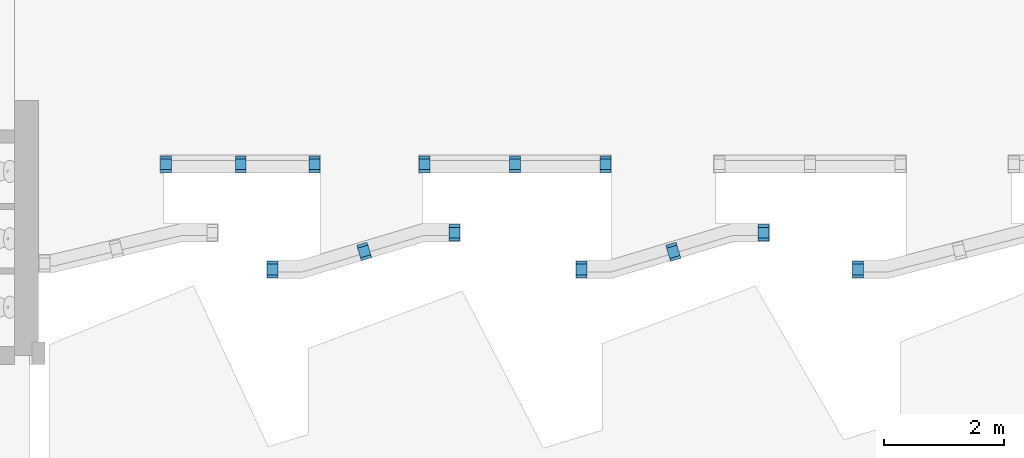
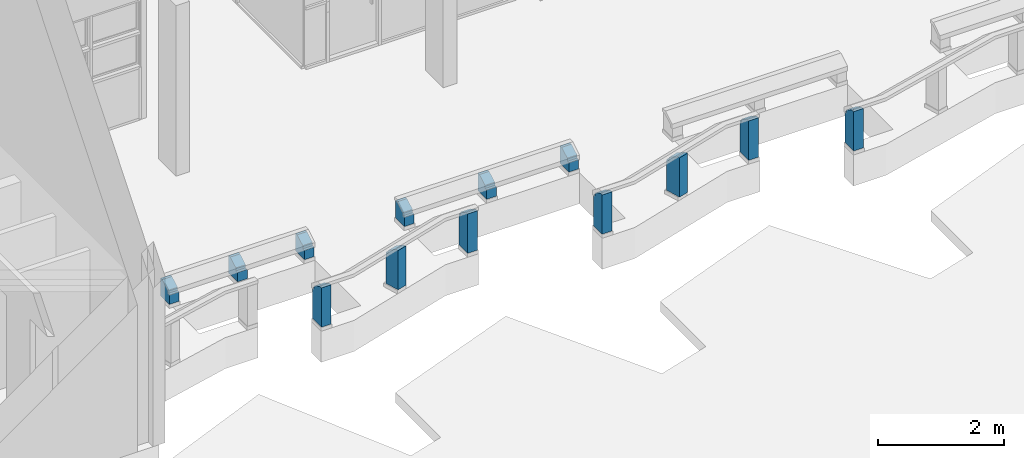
# One storey, part 93 of 117: 13 walls, 13 openings.
"""IFC4 building model written with IfcOpenShell, lengths in metres."""

from ifc_helpers import new_model, entity, si_unit, converted_unit, derived_unit, direction, frame, origin, place, context, subcontext, project, spatial, indexed_curve, outline, extrude, polygons, material, type_object, element, save


model = new_model("IFC4")

# Units and contexts
model_context = context("Model", 3, precision=1e-05, world=origin(), true_north=direction((6.123031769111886e-17, 1.0)))
body_context = subcontext(model_context, "Body", "Model", "MODEL_VIEW")
ifc_project = project(units=[si_unit("LENGTHUNIT", "METRE"), si_unit("AREAUNIT", "SQUARE_METRE"), si_unit("VOLUMEUNIT", "CUBIC_METRE"), converted_unit("PLANEANGLEUNIT", "DEGREE", entity("IfcRatioMeasure", 0.017453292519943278), si_unit("PLANEANGLEUNIT", "RADIAN"), dimensions=[0, 0, 0, 0, 0, 0, 0]), si_unit("MASSUNIT", "GRAM", prefix="KILO"), derived_unit("MASSDENSITYUNIT", [(si_unit("MASSUNIT", "GRAM", prefix="KILO"), 1), (si_unit("LENGTHUNIT", "METRE"), -3)]), derived_unit("MOMENTOFINERTIAUNIT", [(si_unit("LENGTHUNIT", "METRE"), 4)]), si_unit("TIMEUNIT", "SECOND"), si_unit("FREQUENCYUNIT", "HERTZ"), si_unit("THERMODYNAMICTEMPERATUREUNIT", "DEGREE_CELSIUS"), derived_unit("THERMALTRANSMITTANCEUNIT", [(si_unit("MASSUNIT", "GRAM", prefix="KILO"), 1), (si_unit("THERMODYNAMICTEMPERATUREUNIT", "KELVIN"), -1), (si_unit("TIMEUNIT", "SECOND"), -3)]), derived_unit("VOLUMETRICFLOWRATEUNIT", [(si_unit("LENGTHUNIT", "METRE"), 3), (si_unit("TIMEUNIT", "SECOND"), -1)]), derived_unit("MASSFLOWRATEUNIT", [(si_unit("MASSUNIT", "GRAM", prefix="KILO"), 1), (si_unit("TIMEUNIT", "SECOND"), -1)]), derived_unit("ROTATIONALFREQUENCYUNIT", [(si_unit("TIMEUNIT", "SECOND"), -1)]), si_unit("ELECTRICCURRENTUNIT", "AMPERE"), si_unit("ELECTRICVOLTAGEUNIT", "VOLT"), si_unit("POWERUNIT", "WATT"), si_unit("FORCEUNIT", "NEWTON", prefix="KILO"), si_unit("ILLUMINANCEUNIT", "LUX"), si_unit("LUMINOUSFLUXUNIT", "LUMEN"), si_unit("LUMINOUSINTENSITYUNIT", "CANDELA"), derived_unit("USERDEFINED", [(si_unit("MASSUNIT", "GRAM", prefix="KILO"), -1), (si_unit("LENGTHUNIT", "METRE"), -2), (si_unit("TIMEUNIT", "SECOND"), 3), (si_unit("LUMINOUSFLUXUNIT", "LUMEN"), 1)]), derived_unit("SOUNDPOWERUNIT", [(si_unit("MASSUNIT", "GRAM", prefix="KILO"), 1), (si_unit("LENGTHUNIT", "METRE"), 2), (si_unit("TIMEUNIT", "SECOND"), -3)]), derived_unit("SOUNDPRESSUREUNIT", [(si_unit("MASSUNIT", "GRAM", prefix="KILO"), 1), (si_unit("LENGTHUNIT", "METRE"), -1), (si_unit("TIMEUNIT", "SECOND"), -2)]), derived_unit("LINEARVELOCITYUNIT", [(si_unit("LENGTHUNIT", "METRE"), 1), (si_unit("TIMEUNIT", "SECOND"), -1)]), si_unit("PRESSUREUNIT", "PASCAL"), derived_unit("USERDEFINED", [(si_unit("LENGTHUNIT", "METRE"), -2), (si_unit("MASSUNIT", "GRAM", prefix="KILO"), 1), (si_unit("TIMEUNIT", "SECOND"), -2)]), derived_unit("LINEARFORCEUNIT", [(si_unit("MASSUNIT", "GRAM", prefix="KILO"), 1), (si_unit("LENGTHUNIT", "METRE"), 1), (si_unit("TIMEUNIT", "SECOND"), -2), (si_unit("LENGTHUNIT", "METRE"), -1)]), derived_unit("PLANARFORCEUNIT", [(si_unit("MASSUNIT", "GRAM", prefix="KILO"), 1), (si_unit("LENGTHUNIT", "METRE"), 1), (si_unit("TIMEUNIT", "SECOND"), -2), (si_unit("LENGTHUNIT", "METRE"), -2)])], contexts=[model_context])

# Site, building, storey
site_placement = place(None, origin())
site = spatial("IfcSite", under=ifc_project, at=site_placement, Name="Superficie", CompositionType="ELEMENT")
building_placement = place(site_placement, origin())
building = spatial("IfcBuilding", under=site, at=building_placement, CompositionType="ELEMENT")
storey_placement = place(building_placement, origin())
storey = spatial("IfcBuildingStorey", under=building, at=storey_placement, Name="Nivel 0", CompositionType="ELEMENT", Elevation=0.0)

# Wall, opening
ifc_material = material(Name="Muro por defecto", Category="Varios")
wall_type = type_object("IfcWallType", Name="Muro básico:Por defecto - 18 cm 2", PredefinedType="STANDARD")
wall_1_placement = place(storey_placement, frame((-16.222973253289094, -6.154170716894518, 0.07000000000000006), z_axis=(0.0, 0.0, 1.0), x_axis=(0.0, -1.0, 0.0)))
wall_1 = element("IfcWall", 1, at=wall_1_placement, inside=storey, type_object=wall_type, material=ifc_material, Name="Muro básico:Por defecto - 18 cm 2", ObjectType="Muro básico:Por defecto - 18 cm 2", PredefinedType="NOTDEFINED", context=body_context, shape_type="Tessellation", body=[
    polygons([(0.0, -0.08999999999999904, 0.0), (0.27999999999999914, -0.08999999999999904, 0.0), (0.27999999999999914, -0.08999999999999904, 0.17999999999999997), (0.22999999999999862, -0.08999999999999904, 0.17999999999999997), (0.22999999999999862, -0.08999999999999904, 0.24069791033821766), (0.04999999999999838, -0.08999999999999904, 0.3399999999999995), (0.0, -0.08999999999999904, 0.3399999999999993), (0.0, 0.08999999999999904, 0.0), (0.0, 0.08999999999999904, 0.3399999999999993), (0.04999999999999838, 0.08999999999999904, 0.3399999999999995), (0.22999999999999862, 0.08999999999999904, 0.24069791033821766), (0.22999999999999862, 0.08999999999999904, 0.17999999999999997), (0.27999999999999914, 0.08999999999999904, 0.17999999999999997), (0.27999999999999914, 0.08999999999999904, 0.0)], [[[1, 2, 3, 4, 5, 6, 7]], [[8, 9, 10, 11, 12, 13, 14]], [[2, 1, 8, 14]], [[1, 7, 9, 8]], [[3, 2, 14, 13]], [[4, 3, 13, 12]], [[5, 4, 12, 11]], [[6, 5, 11, 10]], [[7, 6, 10, 9]]], closed=True),
])
opening_1_placement = place(wall_1_placement, origin())
element("IfcOpeningElement", 2, at=opening_1_placement, cuts=wall_1, Name="Muro básico:Por defecto - 18 cm 2", PredefinedType="OPENING", context=body_context, shape_type="SweptSolid", body=[
    extrude(outline(indexed_curve([(-0.04046527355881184, -0.016666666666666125), (0.020232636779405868, -0.016666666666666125), (0.020232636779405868, 0.03333333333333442), (-0.04046527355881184, -0.016666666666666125)], self_intersect=False)), frame((0.24666666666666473, 0.0900000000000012, 0.20023263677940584), z_axis=(0.0, -1.0, 0.0), x_axis=(0.0, 0.0, -1.0)), (0.0, 0.0, 1.0), 0.18),
])

wall_2_placement = place(storey_placement, frame((-14.718087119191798, -6.154170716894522, 0.07000000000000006), z_axis=(0.0, 0.0, 1.0), x_axis=(0.0, -1.0, 0.0)))
wall_2 = element("IfcWall", 3, at=wall_2_placement, inside=storey, type_object=wall_type, material=ifc_material, Name="Muro básico:Por defecto - 18 cm 2", ObjectType="Muro básico:Por defecto - 18 cm 2", PredefinedType="NOTDEFINED", context=body_context, shape_type="Tessellation", body=[
    polygons([(0.0, -0.0900000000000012, 0.0), (0.27999999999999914, -0.0900000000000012, 0.0), (0.27999999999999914, -0.0900000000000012, 0.17999999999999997), (0.22999999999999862, -0.0900000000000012, 0.17999999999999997), (0.22999999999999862, -0.0900000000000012, 0.24069791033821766), (0.04999999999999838, -0.0900000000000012, 0.3399999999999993), (0.0, -0.0900000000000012, 0.3399999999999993), (0.0, 0.08999999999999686, 0.0), (0.0, 0.08999999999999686, 0.3399999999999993), (0.04999999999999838, 0.08999999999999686, 0.3399999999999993), (0.22999999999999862, 0.08999999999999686, 0.24069791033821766), (0.22999999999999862, 0.08999999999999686, 0.17999999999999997), (0.27999999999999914, 0.08999999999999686, 0.17999999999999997), (0.27999999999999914, 0.08999999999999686, 0.0)], [[[1, 2, 3, 4, 5, 6, 7]], [[8, 9, 10, 11, 12, 13, 14]], [[2, 1, 8, 14]], [[1, 7, 9, 8]], [[3, 2, 14, 13]], [[4, 3, 13, 12]], [[5, 4, 12, 11]], [[6, 5, 11, 10]], [[7, 6, 10, 9]]], closed=True),
])
opening_2_placement = place(wall_2_placement, origin())
element("IfcOpeningElement", 4, at=opening_2_placement, cuts=wall_2, Name="Muro básico:Por defecto - 18 cm 2", PredefinedType="OPENING", context=body_context, shape_type="SweptSolid", body=[
    extrude(outline(indexed_curve([(-0.036810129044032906, -0.0128641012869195), (0.04182978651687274, -0.012864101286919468), (-0.005019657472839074, 0.025728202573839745), (-0.036810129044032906, -0.0128641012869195)], self_intersect=False)), frame((0.2466666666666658, 0.08999999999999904, 0.20023263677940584), z_axis=(0.0, -1.0, 0.0), x_axis=(-0.6358094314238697, 0.0, 0.771846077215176)), (0.0, 0.0, 1.0), 0.18),
])

wall_3_placement = place(storey_placement, frame((-13.213200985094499, -6.154170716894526, 0.07000000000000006), z_axis=(0.0, 0.0, 1.0), x_axis=(0.0, -1.0, 0.0)))
wall_3 = element("IfcWall", 5, at=wall_3_placement, inside=storey, type_object=wall_type, material=ifc_material, Name="Muro básico:Por defecto - 18 cm 2", ObjectType="Muro básico:Por defecto - 18 cm 2", PredefinedType="NOTDEFINED", context=body_context, shape_type="Tessellation", body=[
    polygons([(0.0, -0.0900000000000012, 0.0), (0.27999999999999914, -0.0900000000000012, 0.0), (0.27999999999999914, -0.0900000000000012, 0.17999999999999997), (0.22999999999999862, -0.0900000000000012, 0.17999999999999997), (0.22999999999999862, -0.0900000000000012, 0.24069791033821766), (0.04999999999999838, -0.0900000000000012, 0.3399999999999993), (0.0, -0.0900000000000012, 0.3399999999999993), (0.0, 0.08999999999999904, 0.0), (0.0, 0.08999999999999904, 0.3399999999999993), (0.04999999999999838, 0.08999999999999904, 0.3399999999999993), (0.22999999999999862, 0.08999999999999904, 0.24069791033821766), (0.22999999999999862, 0.08999999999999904, 0.17999999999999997), (0.27999999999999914, 0.08999999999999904, 0.17999999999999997), (0.27999999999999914, 0.08999999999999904, 0.0)], [[[1, 2, 3, 4, 5, 6, 7]], [[8, 9, 10, 11, 12, 13, 14]], [[2, 1, 8, 14]], [[1, 7, 9, 8]], [[3, 2, 14, 13]], [[4, 3, 13, 12]], [[5, 4, 12, 11]], [[6, 5, 11, 10]], [[7, 6, 10, 9]]], closed=True),
])
opening_3_placement = place(wall_3_placement, origin())
element("IfcOpeningElement", 6, at=opening_3_placement, cuts=wall_3, Name="Muro básico:Por defecto - 18 cm 2", PredefinedType="OPENING", context=body_context, shape_type="SweptSolid", body=[
    extrude(outline(indexed_curve([(-0.036810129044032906, -0.0128641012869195), (0.04182978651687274, -0.012864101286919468), (-0.005019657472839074, 0.025728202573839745), (-0.036810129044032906, -0.0128641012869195)], self_intersect=False)), frame((0.2466666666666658, 0.08999999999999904, 0.20023263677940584), z_axis=(0.0, -1.0, 0.0), x_axis=(-0.6358094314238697, 0.0, 0.771846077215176)), (0.0, 0.0, 1.0), 0.18),
])

wall_4_placement = place(storey_placement, frame((-20.523200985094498, -6.154170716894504, 0.07000000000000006), z_axis=(0.0, 0.0, 1.0), x_axis=(0.0, -1.0, 0.0)))
wall_4 = element("IfcWall", 7, at=wall_4_placement, inside=storey, type_object=wall_type, material=ifc_material, Name="Muro básico:Por defecto - 18 cm 2", ObjectType="Muro básico:Por defecto - 18 cm 2", PredefinedType="NOTDEFINED", context=body_context, shape_type="Tessellation", body=[
    polygons([(0.0, -0.08999999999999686, 0.0), (0.27999999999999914, -0.08999999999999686, 0.0), (0.27999999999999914, -0.08999999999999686, 0.17999999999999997), (0.22999999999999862, -0.08999999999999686, 0.17999999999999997), (0.22999999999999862, -0.08999999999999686, 0.24069791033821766), (0.04999999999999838, -0.08999999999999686, 0.3399999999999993), (0.0, -0.08999999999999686, 0.3399999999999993), (0.0, 0.0900000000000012, 0.0), (0.0, 0.0900000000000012, 0.3399999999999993), (0.04999999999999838, 0.0900000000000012, 0.3399999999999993), (0.22999999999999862, 0.0900000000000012, 0.24069791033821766), (0.22999999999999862, 0.0900000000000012, 0.17999999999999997), (0.27999999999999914, 0.0900000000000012, 0.17999999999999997), (0.27999999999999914, 0.0900000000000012, 0.0)], [[[1, 2, 3, 4, 5, 6, 7]], [[8, 9, 10, 11, 12, 13, 14]], [[2, 1, 8, 14]], [[1, 7, 9, 8]], [[3, 2, 14, 13]], [[4, 3, 13, 12]], [[5, 4, 12, 11]], [[6, 5, 11, 10]], [[7, 6, 10, 9]]], closed=True),
])
opening_4_placement = place(wall_4_placement, origin())
element("IfcOpeningElement", 8, at=opening_4_placement, cuts=wall_4, Name="Muro básico:Por defecto - 18 cm 2", PredefinedType="OPENING", context=body_context, shape_type="SweptSolid", body=[
    extrude(outline(indexed_curve([(-0.036810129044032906, -0.0128641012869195), (0.04182978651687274, -0.012864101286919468), (-0.005019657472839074, 0.025728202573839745), (-0.036810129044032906, -0.0128641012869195)], self_intersect=False)), frame((0.2466666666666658, 0.09000000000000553, 0.20023263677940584), z_axis=(0.0, -1.0, 0.0), x_axis=(-0.6358094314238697, 0.0, 0.771846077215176)), (0.0, 0.0, 1.0), 0.18),
])

wall_5_placement = place(storey_placement, frame((-19.2782009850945, -6.154170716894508, 0.07000000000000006), z_axis=(0.0, 0.0, 1.0), x_axis=(0.0, -1.0, 0.0)))
wall_5 = element("IfcWall", 9, at=wall_5_placement, inside=storey, type_object=wall_type, material=ifc_material, Name="Muro básico:Por defecto - 18 cm 2", ObjectType="Muro básico:Por defecto - 18 cm 2", PredefinedType="NOTDEFINED", context=body_context, shape_type="Tessellation", body=[
    polygons([(0.0, -0.0900000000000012, 0.0), (0.27999999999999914, -0.0900000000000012, 0.0), (0.27999999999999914, -0.0900000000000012, 0.17999999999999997), (0.22999999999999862, -0.0900000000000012, 0.17999999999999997), (0.22999999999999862, -0.0900000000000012, 0.24069791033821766), (0.04999999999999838, -0.0900000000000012, 0.3399999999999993), (0.0, -0.0900000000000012, 0.3399999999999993), (0.0, 0.08999999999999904, 0.0), (0.0, 0.08999999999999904, 0.3399999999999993), (0.04999999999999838, 0.08999999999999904, 0.3399999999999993), (0.22999999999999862, 0.08999999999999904, 0.24069791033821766), (0.22999999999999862, 0.08999999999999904, 0.17999999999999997), (0.27999999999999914, 0.08999999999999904, 0.17999999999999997), (0.27999999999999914, 0.08999999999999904, 0.0)], [[[1, 2, 3, 4, 5, 6, 7]], [[8, 9, 10, 11, 12, 13, 14]], [[2, 1, 8, 14]], [[1, 7, 9, 8]], [[3, 2, 14, 13]], [[4, 3, 13, 12]], [[5, 4, 12, 11]], [[6, 5, 11, 10]], [[7, 6, 10, 9]]], closed=True),
])
opening_5_placement = place(wall_5_placement, origin())
element("IfcOpeningElement", 10, at=opening_5_placement, cuts=wall_5, Name="Muro básico:Por defecto - 18 cm 2", PredefinedType="OPENING", context=body_context, shape_type="SweptSolid", body=[
    extrude(outline(indexed_curve([(-0.03681012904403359, -0.012864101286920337), (0.041829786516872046, -0.012864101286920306), (-0.005019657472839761, 0.025728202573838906), (-0.03681012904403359, -0.012864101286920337)], self_intersect=False)), frame((0.24666666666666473, 0.08999999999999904, 0.20023263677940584), z_axis=(0.0, -1.0, 0.0), x_axis=(-0.6358094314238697, 0.0, 0.771846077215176)), (0.0, 0.0, 1.0), 0.18),
])

wall_6_placement = place(storey_placement, frame((-18.053200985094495, -6.154170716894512, 0.07000000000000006), z_axis=(0.0, 0.0, 1.0), x_axis=(0.0, -1.0, 0.0)))
wall_6 = element("IfcWall", 11, at=wall_6_placement, inside=storey, type_object=wall_type, material=ifc_material, Name="Muro básico:Por defecto - 18 cm 2", ObjectType="Muro básico:Por defecto - 18 cm 2", PredefinedType="NOTDEFINED", context=body_context, shape_type="Tessellation", body=[
    polygons([(0.0, -0.08999999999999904, 0.0), (0.27999999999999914, -0.08999999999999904, 0.0), (0.27999999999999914, -0.08999999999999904, 0.17999999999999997), (0.22999999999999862, -0.08999999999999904, 0.17999999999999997), (0.22999999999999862, -0.08999999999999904, 0.24069791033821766), (0.04999999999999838, -0.08999999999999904, 0.3399999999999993), (0.0, -0.08999999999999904, 0.3399999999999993), (0.0, 0.08999999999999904, 0.0), (0.0, 0.08999999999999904, 0.3399999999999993), (0.04999999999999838, 0.08999999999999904, 0.3399999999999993), (0.22999999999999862, 0.08999999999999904, 0.24069791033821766), (0.22999999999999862, 0.08999999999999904, 0.17999999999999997), (0.27999999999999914, 0.08999999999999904, 0.17999999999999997), (0.27999999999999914, 0.08999999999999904, 0.0)], [[[1, 2, 3, 4, 5, 6, 7]], [[8, 9, 10, 11, 12, 13, 14]], [[2, 1, 8, 14]], [[1, 7, 9, 8]], [[3, 2, 14, 13]], [[4, 3, 13, 12]], [[5, 4, 12, 11]], [[6, 5, 11, 10]], [[7, 6, 10, 9]]], closed=True),
])
opening_6_placement = place(wall_6_placement, origin())
element("IfcOpeningElement", 12, at=opening_6_placement, cuts=wall_6, Name="Muro básico:Por defecto - 18 cm 2", PredefinedType="OPENING", context=body_context, shape_type="SweptSolid", body=[
    extrude(outline(indexed_curve([(-0.03681012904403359, -0.012864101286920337), (0.041829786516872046, -0.012864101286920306), (-0.005019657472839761, 0.025728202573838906), (-0.03681012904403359, -0.012864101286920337)], self_intersect=False)), frame((0.24666666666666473, 0.0900000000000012, 0.20023263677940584), z_axis=(0.0, -1.0, 0.0), x_axis=(-0.6358094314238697, 0.0, 0.771846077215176)), (0.0, 0.0, 1.0), 0.18),
])

wall_7_placement = place(storey_placement, frame((-15.723200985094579, -7.575650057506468, 0.07000000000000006), z_axis=(0.0, 0.0, 1.0), x_axis=(0.0, 1.0, 0.0)))
wall_7 = element("IfcWall", 13, at=wall_7_placement, inside=storey, type_object=wall_type, material=ifc_material, Name="Muro básico:Por defecto - 18 cm 2", ObjectType="Muro básico:Por defecto - 18 cm 2", PredefinedType="NOTDEFINED", context=body_context, shape_type="Tessellation", body=[
    polygons([(1.0828671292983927e-15, -0.09000000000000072, 0.0), (0.27999999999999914, -0.09000000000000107, 0.0), (0.27999999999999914, -0.09000000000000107, 0.6000000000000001), (0.22999999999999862, -0.0900000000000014, 0.6000000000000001), (0.22999999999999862, -0.0900000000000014, 0.6606979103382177), (0.04999999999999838, -0.0900000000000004, 0.7599999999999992), (1.0828671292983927e-15, -0.09000000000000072, 0.7599999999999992), (1.0828671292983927e-15, 0.08999999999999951, 0.0), (1.0828671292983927e-15, 0.08999999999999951, 0.7599999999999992), (0.04999999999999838, 0.08999999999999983, 0.7599999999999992), (0.2299999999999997, 0.08999999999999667, 0.6606979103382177), (0.2299999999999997, 0.08999999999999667, 0.6000000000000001), (0.27999999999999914, 0.089999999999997, 0.6000000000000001), (0.27999999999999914, 0.089999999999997, 0.0)], [[[1, 2, 3, 4, 5, 6, 7]], [[8, 9, 10, 11, 12, 13, 14]], [[2, 1, 8, 14]], [[1, 7, 9, 8]], [[3, 2, 14, 13]], [[4, 3, 13, 12]], [[5, 4, 12, 11]], [[6, 5, 11, 10]], [[7, 6, 10, 9]]], closed=True),
])
opening_7_placement = place(wall_7_placement, origin())
element("IfcOpeningElement", 14, at=opening_7_placement, cuts=wall_7, Name="Muro básico:Por defecto - 18 cm 2", PredefinedType="OPENING", context=body_context, shape_type="SweptSolid", body=[
    extrude(outline(indexed_curve([(-0.036810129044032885, -0.012864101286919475), (0.04182978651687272, -0.0128641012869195), (-0.005019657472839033, 0.025728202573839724), (-0.036810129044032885, -0.012864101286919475)], self_intersect=False)), frame((0.2466666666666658, 0.08999999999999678, 0.6202326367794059), z_axis=(0.0, -1.0, 0.0), x_axis=(-0.6358094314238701, 0.0, 0.7718460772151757)), (0.0, 0.0, 1.0), 0.18),
])

wall_8_placement = place(storey_placement, frame((-17.188176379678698, -7.874138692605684, 0.07000000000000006), z_axis=(0.0, 0.0, 1.0), x_axis=(-0.2877806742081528, 0.957696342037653, 0.0)))
wall_8 = element("IfcWall", 15, at=wall_8_placement, inside=storey, type_object=wall_type, material=ifc_material, Name="Muro básico:Por defecto - 18 cm 2", ObjectType="Muro básico:Por defecto - 18 cm 2", PredefinedType="NOTDEFINED", context=body_context, shape_type="Tessellation", body=[
    polygons([(0.0, -0.08999999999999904, 0.0), (0.267308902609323, -0.08999999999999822, 6.767919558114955e-17), (0.26730890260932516, -0.08999999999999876, 0.6000000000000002), (0.21730890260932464, -0.08999999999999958, 0.6000000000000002), (0.21730890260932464, -0.08999999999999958, 0.6606979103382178), (0.04999999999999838, -0.08999999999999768, 0.7599999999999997), (0.0, -0.08999999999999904, 0.7599999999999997), (0.0, 0.09000000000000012, 0.0), (0.0, 0.09000000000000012, 0.7599999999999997), (0.04999999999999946, 0.08999999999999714, 0.7599999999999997), (0.21730890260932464, 0.08999999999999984, 0.6606979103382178), (0.21730890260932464, 0.08999999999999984, 0.6000000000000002), (0.26730890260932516, 0.09000000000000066, 0.6000000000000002), (0.2673089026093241, 0.09000000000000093, 6.767919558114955e-17)], [[[1, 2, 3, 4, 5, 6, 7]], [[8, 9, 10, 11, 12, 13, 14]], [[2, 1, 8, 14]], [[1, 7, 9, 8]], [[3, 2, 14, 13]], [[4, 3, 13, 12]], [[5, 4, 12, 11]], [[6, 5, 11, 10]], [[7, 6, 10, 9]]], closed=True),
])
opening_8_placement = place(wall_8_placement, origin())
element("IfcOpeningElement", 16, at=opening_8_placement, cuts=wall_8, Name="Muro básico:Por defecto - 18 cm 2", PredefinedType="OPENING", context=body_context, shape_type="SweptSolid", body=[
    extrude(outline(indexed_curve([(-0.03681012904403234, -0.012864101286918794), (0.041829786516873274, -0.012864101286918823), (-0.005019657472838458, 0.02572820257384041), (-0.03681012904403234, -0.012864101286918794)], self_intersect=False)), frame((0.23397556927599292, 0.0900000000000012, 0.620232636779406), z_axis=(0.0, -1.0, 0.0), x_axis=(-0.6358094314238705, 0.0, 0.7718460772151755)), (0.0, 0.0, 1.0), 0.18),
])

wall_9_placement = place(storey_placement, frame((-18.753200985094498, -8.18417071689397, 0.07000000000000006), z_axis=(0.0, 0.0, 1.0), x_axis=(0.0, 1.0, 0.0)))
wall_9 = element("IfcWall", 17, at=wall_9_placement, inside=storey, type_object=wall_type, material=ifc_material, Name="Muro básico:Por defecto - 18 cm 2", ObjectType="Muro básico:Por defecto - 18 cm 2", PredefinedType="NOTDEFINED", context=body_context, shape_type="Tessellation", body=[
    polygons([(1.0828671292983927e-15, -0.09000000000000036, 0.0), (0.2799999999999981, -0.0900000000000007, 0.0), (0.2799999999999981, -0.0900000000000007, 0.6000000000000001), (0.22999999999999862, -0.09000000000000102, 0.6000000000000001), (0.22999999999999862, -0.09000000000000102, 0.6606979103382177), (0.04999999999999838, -0.09000000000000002, 0.7599999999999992), (1.0828671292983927e-15, -0.09000000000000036, 0.7599999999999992), (0.0, 0.08999999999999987, 0.0), (0.0, 0.08999999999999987, 0.7599999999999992), (0.0499999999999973, 0.0900000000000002, 0.7599999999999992), (0.22999999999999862, 0.0899999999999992, 0.6606979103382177), (0.22999999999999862, 0.0899999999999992, 0.6000000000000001), (0.27999999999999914, 0.08999999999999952, 0.6000000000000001), (0.27999999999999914, 0.08999999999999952, 0.0)], [[[1, 2, 3, 4, 5, 6, 7]], [[8, 9, 10, 11, 12, 13, 14]], [[2, 1, 8, 14]], [[1, 7, 9, 8]], [[3, 2, 14, 13]], [[4, 3, 13, 12]], [[5, 4, 12, 11]], [[6, 5, 11, 10]], [[7, 6, 10, 9]]], closed=True),
])
opening_9_placement = place(wall_9_placement, origin())
element("IfcOpeningElement", 18, at=opening_9_placement, cuts=wall_9, Name="Muro básico:Por defecto - 18 cm 2", PredefinedType="OPENING", context=body_context, shape_type="SweptSolid", body=[
    extrude(outline(indexed_curve([(-0.036810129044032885, -0.012864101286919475), (0.04182978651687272, -0.0128641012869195), (-0.005019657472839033, 0.025728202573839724), (-0.036810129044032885, -0.012864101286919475)], self_intersect=False)), frame((0.2466666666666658, 0.08999999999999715, 0.6202326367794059), z_axis=(0.0, -1.0, 0.0), x_axis=(-0.6358094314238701, 0.0, 0.7718460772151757)), (0.0, 0.0, 1.0), 0.18),
])

wall_10_placement = place(storey_placement, frame((-10.58320098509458, -7.575650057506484, 0.07000000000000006), z_axis=(0.0, 0.0, 1.0), x_axis=(0.0, 1.0, 0.0)))
wall_10 = element("IfcWall", 19, at=wall_10_placement, inside=storey, type_object=wall_type, material=ifc_material, Name="Muro básico:Por defecto - 18 cm 2", ObjectType="Muro básico:Por defecto - 18 cm 2", PredefinedType="NOTDEFINED", context=body_context, shape_type="Tessellation", body=[
    polygons([(1.0828671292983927e-15, -0.09000000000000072, 0.0), (0.27999999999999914, -0.09000000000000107, 0.0), (0.27999999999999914, -0.09000000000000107, 0.6000000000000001), (0.2299999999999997, -0.0900000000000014, 0.6000000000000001), (0.2299999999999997, -0.0900000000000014, 0.6606979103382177), (0.04999999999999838, -0.0900000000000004, 0.7599999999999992), (1.0828671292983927e-15, -0.09000000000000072, 0.7599999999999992), (1.0828671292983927e-15, 0.08999999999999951, 0.0), (1.0828671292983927e-15, 0.08999999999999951, 0.7599999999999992), (0.04999999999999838, 0.08999999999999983, 0.7599999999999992), (0.22999999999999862, 0.08999999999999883, 0.6606979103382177), (0.22999999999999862, 0.08999999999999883, 0.6000000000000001), (0.2799999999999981, 0.08999999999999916, 0.6000000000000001), (0.2799999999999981, 0.08999999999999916, 0.0)], [[[1, 2, 3, 4, 5, 6, 7]], [[8, 9, 10, 11, 12, 13, 14]], [[2, 1, 8, 14]], [[1, 7, 9, 8]], [[3, 2, 14, 13]], [[4, 3, 13, 12]], [[5, 4, 12, 11]], [[6, 5, 11, 10]], [[7, 6, 10, 9]]], closed=True),
])
opening_10_placement = place(wall_10_placement, origin())
element("IfcOpeningElement", 20, at=opening_10_placement, cuts=wall_10, Name="Muro básico:Por defecto - 18 cm 2", PredefinedType="OPENING", context=body_context, shape_type="SweptSolid", body=[
    extrude(outline(indexed_curve([(-0.036810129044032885, -0.012864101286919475), (0.04182978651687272, -0.0128641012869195), (-0.005019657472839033, 0.025728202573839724), (-0.036810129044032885, -0.012864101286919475)], self_intersect=False)), frame((0.2466666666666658, 0.08999999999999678, 0.6202326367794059), z_axis=(0.0, -1.0, 0.0), x_axis=(-0.6358094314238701, 0.0, 0.7718460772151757)), (0.0, 0.0, 1.0), 0.18),
])

wall_11_placement = place(storey_placement, frame((-12.044524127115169, -7.886292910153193, 0.06999999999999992), z_axis=(0.0, 0.0, 1.0), x_axis=(-0.2877806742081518, 0.9576963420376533, 0.0)))
wall_11 = element("IfcWall", 21, at=wall_11_placement, inside=storey, type_object=wall_type, material=ifc_material, Name="Muro básico:Por defecto - 18 cm 2", ObjectType="Muro básico:Por defecto - 18 cm 2", PredefinedType="NOTDEFINED", context=body_context, shape_type="Tessellation", body=[
    polygons([(0.0, -0.08999999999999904, 0.0), (0.27999999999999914, -0.08999999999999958, 0.0), (0.27999999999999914, -0.08999999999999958, 0.6000000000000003), (0.22999999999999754, -0.08999999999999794, 0.6000000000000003), (0.22999999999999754, -0.08999999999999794, 0.660697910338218), (0.04999999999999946, -0.08999999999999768, 0.7599999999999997), (0.0, -0.08999999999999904, 0.7599999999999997), (0.0, 0.09000000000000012, 0.0), (0.0, 0.09000000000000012, 0.7599999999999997), (0.04999999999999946, 0.09000000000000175, 0.7599999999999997), (0.22999999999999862, 0.09000000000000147, 0.660697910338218), (0.22999999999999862, 0.09000000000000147, 0.6000000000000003), (0.27999999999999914, 0.09000000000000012, 0.6000000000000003), (0.27999999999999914, 0.09000000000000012, 0.0)], [[[1, 2, 3, 4, 5, 6, 7]], [[8, 9, 10, 11, 12, 13, 14]], [[2, 1, 8, 14]], [[1, 7, 9, 8]], [[3, 2, 14, 13]], [[4, 3, 13, 12]], [[5, 4, 12, 11]], [[6, 5, 11, 10]], [[7, 6, 10, 9]]], closed=True),
])
opening_11_placement = place(wall_11_placement, origin())
element("IfcOpeningElement", 22, at=opening_11_placement, cuts=wall_11, Name="Muro básico:Por defecto - 18 cm 2", PredefinedType="OPENING", context=body_context, shape_type="SweptSolid", body=[
    extrude(outline(indexed_curve([(-0.036810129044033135, -0.012864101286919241), (0.04182978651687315, -0.012864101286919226), (-0.0050196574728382, 0.025728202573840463), (-0.036810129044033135, -0.012864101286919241)], self_intersect=False)), frame((0.24666666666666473, 0.0899999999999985, 0.6202326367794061), z_axis=(0.0, -1.0, 0.0), x_axis=(-0.6358094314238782, 0.0, 0.7718460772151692)), (0.0, 0.0, 1.0), 0.1799999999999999),
])

wall_12_placement = place(storey_placement, frame((-13.6132009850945, -8.184170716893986, 0.07000000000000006), z_axis=(0.0, 0.0, 1.0), x_axis=(0.0, 1.0, 0.0)))
wall_12 = element("IfcWall", 23, at=wall_12_placement, inside=storey, type_object=wall_type, material=ifc_material, Name="Muro básico:Por defecto - 18 cm 2", ObjectType="Muro básico:Por defecto - 18 cm 2", PredefinedType="NOTDEFINED", context=body_context, shape_type="Tessellation", body=[
    polygons([(0.0, -0.08999999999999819, 0.0), (0.27999999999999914, -0.0900000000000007, 0.0), (0.27999999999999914, -0.0900000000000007, 0.6000000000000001), (0.22999999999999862, -0.09000000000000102, 0.6000000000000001), (0.22999999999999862, -0.09000000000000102, 0.6606979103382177), (0.0499999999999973, -0.08999999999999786, 0.7599999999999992), (0.0, -0.08999999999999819, 0.7599999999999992), (1.0828671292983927e-15, 0.08999999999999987, 0.0), (1.0828671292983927e-15, 0.08999999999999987, 0.7599999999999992), (0.04999999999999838, 0.0900000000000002, 0.7599999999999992), (0.22999999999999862, 0.0899999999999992, 0.6606979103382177), (0.22999999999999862, 0.0899999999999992, 0.6000000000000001), (0.27999999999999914, 0.08999999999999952, 0.6000000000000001), (0.27999999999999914, 0.08999999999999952, 0.0)], [[[1, 2, 3, 4, 5, 6, 7]], [[8, 9, 10, 11, 12, 13, 14]], [[2, 1, 8, 14]], [[1, 7, 9, 8]], [[3, 2, 14, 13]], [[4, 3, 13, 12]], [[5, 4, 12, 11]], [[6, 5, 11, 10]], [[7, 6, 10, 9]]], closed=True),
])
opening_12_placement = place(wall_12_placement, origin())
element("IfcOpeningElement", 24, at=opening_12_placement, cuts=wall_12, Name="Muro básico:Por defecto - 18 cm 2", PredefinedType="OPENING", context=body_context, shape_type="SweptSolid", body=[
    extrude(outline(indexed_curve([(-0.03681012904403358, -0.012864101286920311), (0.041829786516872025, -0.012864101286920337), (-0.0050196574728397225, 0.025728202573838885), (-0.03681012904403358, -0.012864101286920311)], self_intersect=False)), frame((0.24666666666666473, 0.08999999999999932, 0.6202326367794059), z_axis=(0.0, -1.0, 0.0), x_axis=(-0.6358094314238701, 0.0, 0.7718460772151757)), (0.0, 0.0, 1.0), 0.18),
])

wall_13_placement = place(storey_placement, frame((-9.0132009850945, -8.184170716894, 0.07000000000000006), z_axis=(0.0, 0.0, 1.0), x_axis=(0.0, 1.0, 0.0)))
wall_13 = element("IfcWall", 25, at=wall_13_placement, inside=storey, type_object=wall_type, material=ifc_material, Name="Muro básico:Por defecto - 18 cm 2", ObjectType="Muro básico:Por defecto - 18 cm 2", PredefinedType="NOTDEFINED", context=body_context, shape_type="Tessellation", body=[
    polygons([(0.0, -0.09000000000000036, 0.0), (0.2799999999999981, -0.0900000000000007, 0.0), (0.2799999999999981, -0.0900000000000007, 0.6000000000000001), (0.22999999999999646, -0.09000000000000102, 0.6000000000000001), (0.22999999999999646, -0.09000000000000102, 0.6606979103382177), (0.0499999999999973, -0.09000000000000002, 0.7599999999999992), (0.0, -0.09000000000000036, 0.7599999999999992), (0.0, 0.08999999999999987, 0.0), (0.0, 0.08999999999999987, 0.7599999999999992), (0.0499999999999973, 0.0900000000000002, 0.7599999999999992), (0.22999999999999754, 0.09000000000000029, 0.6606979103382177), (0.22999999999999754, 0.09000000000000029, 0.6000000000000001), (0.27999999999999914, 0.08999999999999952, 0.6000000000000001), (0.27999999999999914, 0.08999999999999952, 0.0)], [[[1, 2, 3, 4, 5, 6, 7]], [[8, 9, 10, 11, 12, 13, 14]], [[2, 1, 8, 14]], [[1, 7, 9, 8]], [[3, 2, 14, 13]], [[4, 3, 13, 12]], [[5, 4, 12, 11]], [[6, 5, 11, 10]], [[7, 6, 10, 9]]], closed=True),
])
opening_13_placement = place(wall_13_placement, origin())
element("IfcOpeningElement", 26, at=opening_13_placement, cuts=wall_13, Name="Muro básico:Por defecto - 18 cm 2", PredefinedType="OPENING", context=body_context, shape_type="SweptSolid", body=[
    extrude(outline(indexed_curve([(-0.036810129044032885, -0.012864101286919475), (0.04182978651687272, -0.0128641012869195), (-0.005019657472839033, 0.025728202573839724), (-0.036810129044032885, -0.012864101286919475)], self_intersect=False)), frame((0.24666666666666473, 0.0900000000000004, 0.6202326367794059), z_axis=(0.0, -1.0, 0.0), x_axis=(-0.6358094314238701, 0.0, 0.7718460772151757)), (0.0, 0.0, 1.0), 0.18),
])

save(model, "model.ifc")
